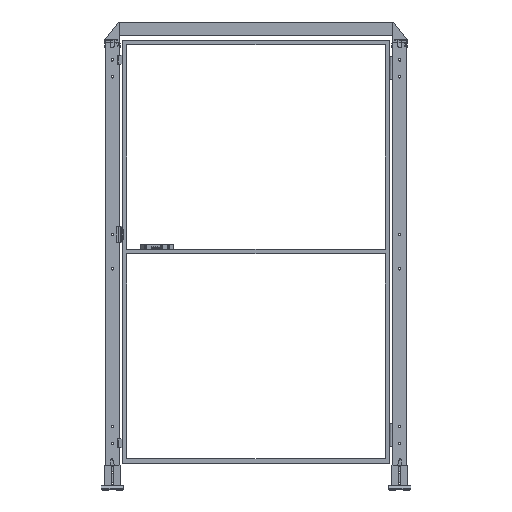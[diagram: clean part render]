
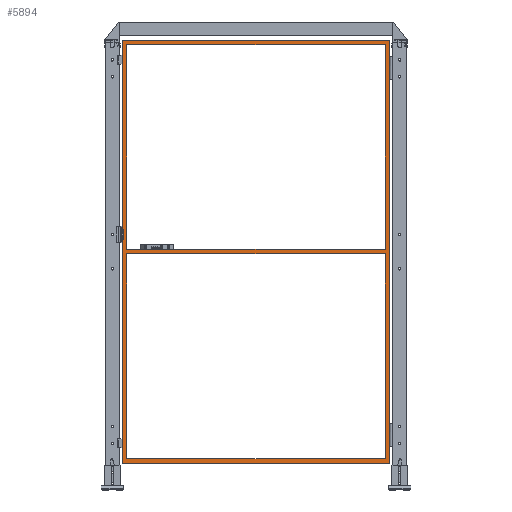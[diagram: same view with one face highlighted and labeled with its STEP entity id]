
A CAD part, top view. The second image highlights one B-rep face of the part: STEP entity #5894.
In plain terms, the highlighted planar face has unit normal (0, 0, 1).
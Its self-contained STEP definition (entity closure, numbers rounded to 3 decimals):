
#5894=ADVANCED_FACE('',(#12068,#12069,#12070),#12071,.F.);
#12068=FACE_BOUND('',#19807,.T.);
#12069=FACE_OUTER_BOUND('',#19808,.T.);
#12070=FACE_BOUND('',#19809,.T.);
#12071=PLANE('',#19810);
#19807=EDGE_LOOP('',(#37257,#37258,#37259,#37260));
#19808=EDGE_LOOP('',(#37261,#37262,#37263,#37264));
#19809=EDGE_LOOP('',(#37265,#37266,#37267,#37268));
#19810=AXIS2_PLACEMENT_3D('',#37269,#37270,#37271);
#37257=ORIENTED_EDGE('',*,*,#44399,.F.);
#37258=ORIENTED_EDGE('',*,*,#44405,.T.);
#37259=ORIENTED_EDGE('',*,*,#44427,.T.);
#37260=ORIENTED_EDGE('',*,*,#44432,.F.);
#37261=ORIENTED_EDGE('',*,*,#44443,.F.);
#37262=ORIENTED_EDGE('',*,*,#44437,.F.);
#37263=ORIENTED_EDGE('',*,*,#44407,.F.);
#37264=ORIENTED_EDGE('',*,*,#44441,.F.);
#37265=ORIENTED_EDGE('',*,*,#44429,.F.);
#37266=ORIENTED_EDGE('',*,*,#44424,.F.);
#37267=ORIENTED_EDGE('',*,*,#44435,.T.);
#37268=ORIENTED_EDGE('',*,*,#44444,.T.);
#37269=CARTESIAN_POINT('',(615.0,130.0,10.0));
#37270=DIRECTION('',(0.,0.0,-1.0));
#37271=DIRECTION('',(-1.0,0.0,0.));
#44399=EDGE_CURVE('',#54881,#54884,#54885,.T.);
#44405=EDGE_CURVE('',#54881,#54892,#54894,.T.);
#44407=EDGE_CURVE('',#54896,#54897,#54898,.T.);
#44424=EDGE_CURVE('',#54924,#54922,#54926,.T.);
#44427=EDGE_CURVE('',#54892,#54928,#54930,.T.);
#44429=EDGE_CURVE('',#54922,#54932,#54933,.T.);
#44432=EDGE_CURVE('',#54884,#54928,#54936,.T.);
#44435=EDGE_CURVE('',#54924,#54938,#54940,.T.);
#44437=EDGE_CURVE('',#54897,#54942,#54943,.T.);
#44441=EDGE_CURVE('',#54946,#54896,#54948,.T.);
#44443=EDGE_CURVE('',#54942,#54946,#54950,.T.);
#44444=EDGE_CURVE('',#54938,#54932,#54951,.T.);
#54881=VERTEX_POINT('',#70715);
#54884=VERTEX_POINT('',#70719);
#54885=LINE('',#70720,#70721);
#54892=VERTEX_POINT('',#70731);
#54894=LINE('',#70734,#70735);
#54896=VERTEX_POINT('',#70737);
#54897=VERTEX_POINT('',#70738);
#54898=LINE('',#70739,#70740);
#54922=VERTEX_POINT('',#70776);
#54924=VERTEX_POINT('',#70779);
#54926=LINE('',#70782,#70783);
#54928=VERTEX_POINT('',#70785);
#54930=LINE('',#70788,#70789);
#54932=VERTEX_POINT('',#70791);
#54933=LINE('',#70792,#70793);
#54936=LINE('',#70797,#70798);
#54938=VERTEX_POINT('',#70800);
#54940=LINE('',#70803,#70804);
#54942=VERTEX_POINT('',#70806);
#54943=LINE('',#70807,#70808);
#54946=VERTEX_POINT('',#70812);
#54948=LINE('',#70815,#70816);
#54950=LINE('',#70818,#70819);
#54951=LINE('',#70820,#70821);
#70715=CARTESIAN_POINT('',(1195.0,2000.0,10.));
#70719=CARTESIAN_POINT('',(35.,2000.0,10.0));
#70720=CARTESIAN_POINT('',(615.0,2000.0,10.0));
#70721=VECTOR('',#78397,1.0);
#70731=CARTESIAN_POINT('',(1195.0,1080.0,10.));
#70734=CARTESIAN_POINT('',(1195.0,1070.0,10.));
#70735=VECTOR('',#78402,1.0);
#70737=CARTESIAN_POINT('',(15.0,120.0,10.0));
#70738=CARTESIAN_POINT('',(15.,2020.0,10.0));
#70739=CARTESIAN_POINT('',(15.0,130.0,10.0));
#70740=VECTOR('',#78403,1.0);
#70776=CARTESIAN_POINT('',(35.,1060.0,10.0));
#70779=CARTESIAN_POINT('',(1195.0,1060.0,10.));
#70782=CARTESIAN_POINT('',(615.0,1060.0,10.0));
#70783=VECTOR('',#78418,1.0);
#70785=CARTESIAN_POINT('',(35.0,1080.0,10.0));
#70788=CARTESIAN_POINT('',(615.0,1080.0,10.0));
#70789=VECTOR('',#78420,1.0);
#70791=CARTESIAN_POINT('',(35.,140.0,10.0));
#70792=CARTESIAN_POINT('',(35.,1070.0,10.0));
#70793=VECTOR('',#78421,1.0);
#70797=CARTESIAN_POINT('',(35.,1070.0,10.0));
#70798=VECTOR('',#78423,1.0);
#70800=CARTESIAN_POINT('',(1195.0,140.0,10.));
#70803=CARTESIAN_POINT('',(1195.0,1070.0,10.));
#70804=VECTOR('',#78425,1.0);
#70806=CARTESIAN_POINT('',(1215.0,2020.0,10.));
#70807=CARTESIAN_POINT('',(25.,2020.0,10.0));
#70808=VECTOR('',#78426,1.0);
#70812=CARTESIAN_POINT('',(1215.0,120.0,10.));
#70815=CARTESIAN_POINT('',(615.0,120.0,10.0));
#70816=VECTOR('',#78429,1.0);
#70818=CARTESIAN_POINT('',(1215.0,1070.0,10.));
#70819=VECTOR('',#78430,1.0);
#70820=CARTESIAN_POINT('',(615.0,140.0,10.0));
#70821=VECTOR('',#78431,1.0);
#78397=DIRECTION('',(-1.0,0.0,0.));
#78402=DIRECTION('',(0.,-1.0,0.));
#78403=DIRECTION('',(0.0,1.0,0.0));
#78418=DIRECTION('',(-1.0,0.0,0.));
#78420=DIRECTION('',(-1.0,0.0,0.));
#78421=DIRECTION('',(0.,-1.0,0.));
#78423=DIRECTION('',(0.,-1.0,0.));
#78425=DIRECTION('',(0.,-1.0,0.));
#78426=DIRECTION('',(1.0,0.,0.));
#78429=DIRECTION('',(-1.0,0.0,0.));
#78430=DIRECTION('',(0.,-1.0,0.));
#78431=DIRECTION('',(-1.0,0.0,0.));
